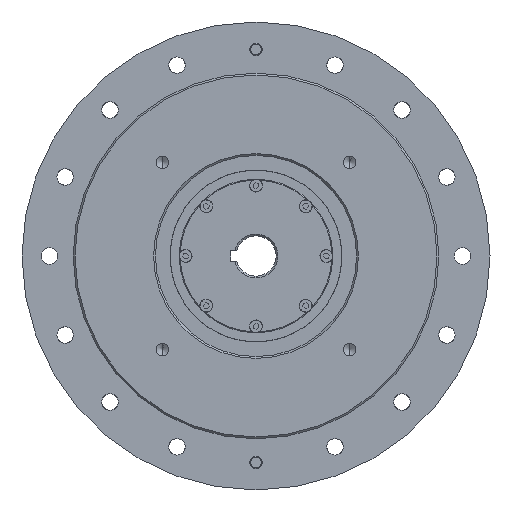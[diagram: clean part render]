
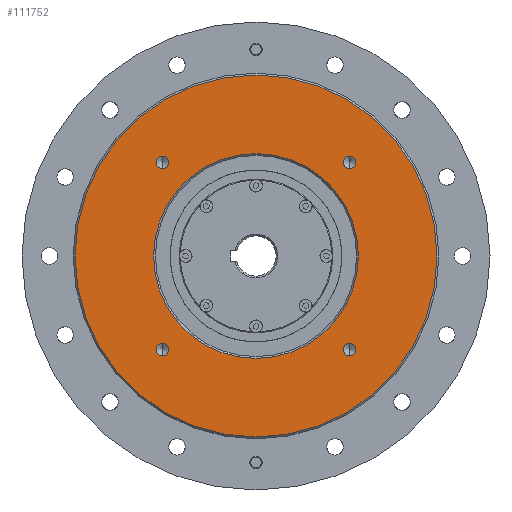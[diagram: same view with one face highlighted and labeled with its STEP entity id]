
A CAD part, left-side view. The second image highlights one B-rep face of the part: STEP entity #111752.
In plain terms, the highlighted planar face has unit normal (-1, 0, 0).
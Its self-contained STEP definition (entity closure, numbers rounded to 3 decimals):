
#470 = ORIENTED_EDGE ( 'NONE', *, *, #99051, .T. ) ;
#722 = ORIENTED_EDGE ( 'NONE', *, *, #52515, .F. ) ;
#2452 = DIRECTION ( 'NONE',  ( 0., 0., 1. ) ) ;
#3222 = DIRECTION ( 'NONE',  ( -1., 0., 0. ) ) ;
#3645 = DIRECTION ( 'NONE',  ( 0., 0., 1. ) ) ;
#4954 = PLANE ( 'NONE',  #58574 ) ;
#5633 = AXIS2_PLACEMENT_3D ( 'NONE', #48474, #3222, #38585 ) ;
#6548 = ORIENTED_EDGE ( 'NONE', *, *, #54465, .T. ) ;
#7559 = EDGE_LOOP ( 'NONE', ( #36174, #56863 ) ) ;
#7666 = DIRECTION ( 'NONE',  ( 1., 0., 0. ) ) ;
#8281 = VERTEX_POINT ( 'NONE', #110486 ) ;
#8315 = CARTESIAN_POINT ( 'NONE',  ( -19., 0., -56. ) ) ;
#12621 = DIRECTION ( 'NONE',  ( 0., 0., -1. ) ) ;
#13104 = FACE_BOUND ( 'NONE', #107127, .T. ) ;
#14528 = ORIENTED_EDGE ( 'NONE', *, *, #35929, .T. ) ;
#17848 = VERTEX_POINT ( 'NONE', #31244 ) ;
#19074 = EDGE_CURVE ( 'NONE', #66935, #82088, #38914, .T. ) ;
#20735 = DIRECTION ( 'NONE',  ( 0., 0., 1. ) ) ;
#21275 = EDGE_LOOP ( 'NONE', ( #96959, #722 ) ) ;
#21522 = CARTESIAN_POINT ( 'NONE',  ( -19., 51.265, 51.265 ) ) ;
#21777 = FACE_BOUND ( 'NONE', #62899, .T. ) ;
#22240 = VERTEX_POINT ( 'NONE', #78980 ) ;
#22698 = EDGE_CURVE ( 'NONE', #63169, #103940, #47489, .T. ) ;
#23057 = CIRCLE ( 'NONE', #114236, 3.4 ) ;
#23656 = CIRCLE ( 'NONE', #72006, 3.4 ) ;
#24625 = CIRCLE ( 'NONE', #82271, 56. ) ;
#26010 = VERTEX_POINT ( 'NONE', #82654 ) ;
#26180 = DIRECTION ( 'NONE',  ( 0., 0., 1. ) ) ;
#29415 = ORIENTED_EDGE ( 'NONE', *, *, #99402, .T. ) ;
#31244 = CARTESIAN_POINT ( 'NONE',  ( -19., 51.265, 54.665 ) ) ;
#31565 = DIRECTION ( 'NONE',  ( 0., 0., 1. ) ) ;
#31887 = CARTESIAN_POINT ( 'NONE',  ( -19., 51.265, -47.865 ) ) ;
#32166 = FACE_BOUND ( 'NONE', #113703, .T. ) ;
#35929 = EDGE_CURVE ( 'NONE', #53030, #22240, #88418, .T. ) ;
#36174 = ORIENTED_EDGE ( 'NONE', *, *, #49043, .F. ) ;
#37208 = CARTESIAN_POINT ( 'NONE',  ( -19., -51.265, 51.265 ) ) ;
#38585 = DIRECTION ( 'NONE',  ( 0., 0., 1. ) ) ;
#38914 = CIRCLE ( 'NONE', #5633, 3.4 ) ;
#39740 = FACE_BOUND ( 'NONE', #7559, .T. ) ;
#40311 = DIRECTION ( 'NONE',  ( 0., 0., -1. ) ) ;
#42599 = AXIS2_PLACEMENT_3D ( 'NONE', #21522, #47693, #2452 ) ;
#47489 = CIRCLE ( 'NONE', #53086, 3.4 ) ;
#47693 = DIRECTION ( 'NONE',  ( -1., 0., 0. ) ) ;
#47795 = DIRECTION ( 'NONE',  ( -1., 0., 0. ) ) ;
#48412 = EDGE_LOOP ( 'NONE', ( #29415, #14528 ) ) ;
#48474 = CARTESIAN_POINT ( 'NONE',  ( -19., 51.265, -51.265 ) ) ;
#48512 = CARTESIAN_POINT ( 'NONE',  ( -19., 55., 0. ) ) ;
#49043 = EDGE_CURVE ( 'NONE', #26010, #8281, #69212, .T. ) ;
#49153 = DIRECTION ( 'NONE',  ( 1., 0., 0. ) ) ;
#50326 = CARTESIAN_POINT ( 'NONE',  ( -19., 0., 56. ) ) ;
#52515 = EDGE_CURVE ( 'NONE', #103940, #63169, #23656, .T. ) ;
#53030 = VERTEX_POINT ( 'NONE', #111005 ) ;
#53053 = ORIENTED_EDGE ( 'NONE', *, *, #19074, .F. ) ;
#53086 = AXIS2_PLACEMENT_3D ( 'NONE', #69385, #53121, #71145 ) ;
#53121 = DIRECTION ( 'NONE',  ( -1., 0., 0. ) ) ;
#54465 = EDGE_CURVE ( 'NONE', #107572, #71651, #113385, .T. ) ;
#56863 = ORIENTED_EDGE ( 'NONE', *, *, #74212, .F. ) ;
#56952 = CARTESIAN_POINT ( 'NONE',  ( -19., 0., 0. ) ) ;
#57517 = DIRECTION ( 'NONE',  ( 0., 0., -1. ) ) ;
#58574 = AXIS2_PLACEMENT_3D ( 'NONE', #48512, #84026, #40311 ) ;
#60533 = CARTESIAN_POINT ( 'NONE',  ( -19., 0., 0. ) ) ;
#61101 = DIRECTION ( 'NONE',  ( 0., 0., -1. ) ) ;
#62899 = EDGE_LOOP ( 'NONE', ( #82951, #105164 ) ) ;
#63169 = VERTEX_POINT ( 'NONE', #65794 ) ;
#63381 = DIRECTION ( 'NONE',  ( -1., 0., 0. ) ) ;
#63860 = AXIS2_PLACEMENT_3D ( 'NONE', #37208, #63381, #26180 ) ;
#64384 = DIRECTION ( 'NONE',  ( -1., 0., 0. ) ) ;
#64509 = CARTESIAN_POINT ( 'NONE',  ( -19., -51.265, -51.265 ) ) ;
#65678 = CIRCLE ( 'NONE', #63860, 3.4 ) ;
#65744 = EDGE_CURVE ( 'NONE', #91626, #17848, #82638, .T. ) ;
#65794 = CARTESIAN_POINT ( 'NONE',  ( -19., -51.265, -47.865 ) ) ;
#66935 = VERTEX_POINT ( 'NONE', #31887 ) ;
#67663 = FACE_BOUND ( 'NONE', #21275, .T. ) ;
#69212 = CIRCLE ( 'NONE', #94952, 3.4 ) ;
#69376 = CARTESIAN_POINT ( 'NONE',  ( -19., 51.265, 51.265 ) ) ;
#69385 = CARTESIAN_POINT ( 'NONE',  ( -19., -51.265, -51.265 ) ) ;
#69414 = ORIENTED_EDGE ( 'NONE', *, *, #85567, .F. ) ;
#69685 = CARTESIAN_POINT ( 'NONE',  ( -19., 51.265, 47.865 ) ) ;
#71145 = DIRECTION ( 'NONE',  ( 0., 0., 1. ) ) ;
#71651 = VERTEX_POINT ( 'NONE', #8315 ) ;
#72006 = AXIS2_PLACEMENT_3D ( 'NONE', #64509, #100022, #73808 ) ;
#73808 = DIRECTION ( 'NONE',  ( 0., 0., 1. ) ) ;
#74212 = EDGE_CURVE ( 'NONE', #8281, #26010, #65678, .T. ) ;
#75396 = AXIS2_PLACEMENT_3D ( 'NONE', #56952, #92456, #57517 ) ;
#78092 = CARTESIAN_POINT ( 'NONE',  ( -19., 0., 0. ) ) ;
#78980 = CARTESIAN_POINT ( 'NONE',  ( -19., 0., -99. ) ) ;
#79937 = CARTESIAN_POINT ( 'NONE',  ( -19., -51.265, -54.665 ) ) ;
#80497 = AXIS2_PLACEMENT_3D ( 'NONE', #78092, #87439, #105481 ) ;
#82088 = VERTEX_POINT ( 'NONE', #97633 ) ;
#82271 = AXIS2_PLACEMENT_3D ( 'NONE', #82377, #49153, #12621 ) ;
#82377 = CARTESIAN_POINT ( 'NONE',  ( -19., 0., 0. ) ) ;
#82638 = CIRCLE ( 'NONE', #95677, 3.4 ) ;
#82654 = CARTESIAN_POINT ( 'NONE',  ( -19., -51.265, 54.665 ) ) ;
#82951 = ORIENTED_EDGE ( 'NONE', *, *, #89556, .F. ) ;
#83495 = CIRCLE ( 'NONE', #42599, 3.4 ) ;
#84026 = DIRECTION ( 'NONE',  ( 1., 0., 0. ) ) ;
#84261 = CIRCLE ( 'NONE', #80497, 99. ) ;
#85567 = EDGE_CURVE ( 'NONE', #82088, #66935, #23057, .T. ) ;
#87439 = DIRECTION ( 'NONE',  ( -1., 0., 0. ) ) ;
#88418 = CIRCLE ( 'NONE', #75396, 99. ) ;
#89556 = EDGE_CURVE ( 'NONE', #17848, #91626, #83495, .T. ) ;
#91626 = VERTEX_POINT ( 'NONE', #69685 ) ;
#92456 = DIRECTION ( 'NONE',  ( -1., 0., 0. ) ) ;
#94636 = AXIS2_PLACEMENT_3D ( 'NONE', #60533, #7666, #61101 ) ;
#94952 = AXIS2_PLACEMENT_3D ( 'NONE', #109572, #47795, #3645 ) ;
#95677 = AXIS2_PLACEMENT_3D ( 'NONE', #69376, #104921, #31565 ) ;
#96959 = ORIENTED_EDGE ( 'NONE', *, *, #22698, .F. ) ;
#97633 = CARTESIAN_POINT ( 'NONE',  ( -19., 51.265, -54.665 ) ) ;
#99051 = EDGE_CURVE ( 'NONE', #71651, #107572, #24625, .T. ) ;
#99402 = EDGE_CURVE ( 'NONE', #22240, #53030, #84261, .T. ) ;
#100022 = DIRECTION ( 'NONE',  ( -1., 0., 0. ) ) ;
#100474 = CARTESIAN_POINT ( 'NONE',  ( -19., 51.265, -51.265 ) ) ;
#103940 = VERTEX_POINT ( 'NONE', #79937 ) ;
#104921 = DIRECTION ( 'NONE',  ( -1., 0., 0. ) ) ;
#105164 = ORIENTED_EDGE ( 'NONE', *, *, #65744, .F. ) ;
#105481 = DIRECTION ( 'NONE',  ( 0., 0., -1. ) ) ;
#107127 = EDGE_LOOP ( 'NONE', ( #53053, #69414 ) ) ;
#107572 = VERTEX_POINT ( 'NONE', #50326 ) ;
#109572 = CARTESIAN_POINT ( 'NONE',  ( -19., -51.265, 51.265 ) ) ;
#110486 = CARTESIAN_POINT ( 'NONE',  ( -19., -51.265, 47.865 ) ) ;
#111005 = CARTESIAN_POINT ( 'NONE',  ( -19., 0., 99. ) ) ;
#111460 = FACE_OUTER_BOUND ( 'NONE', #48412, .T. ) ;
#111752 = ADVANCED_FACE ( 'NONE', ( #111460, #32166, #13104, #67663, #21777, #39740 ), #4954, .F. ) ;
#113385 = CIRCLE ( 'NONE', #94636, 56. ) ;
#113703 = EDGE_LOOP ( 'NONE', ( #6548, #470 ) ) ;
#114236 = AXIS2_PLACEMENT_3D ( 'NONE', #100474, #64384, #20735 ) ;
